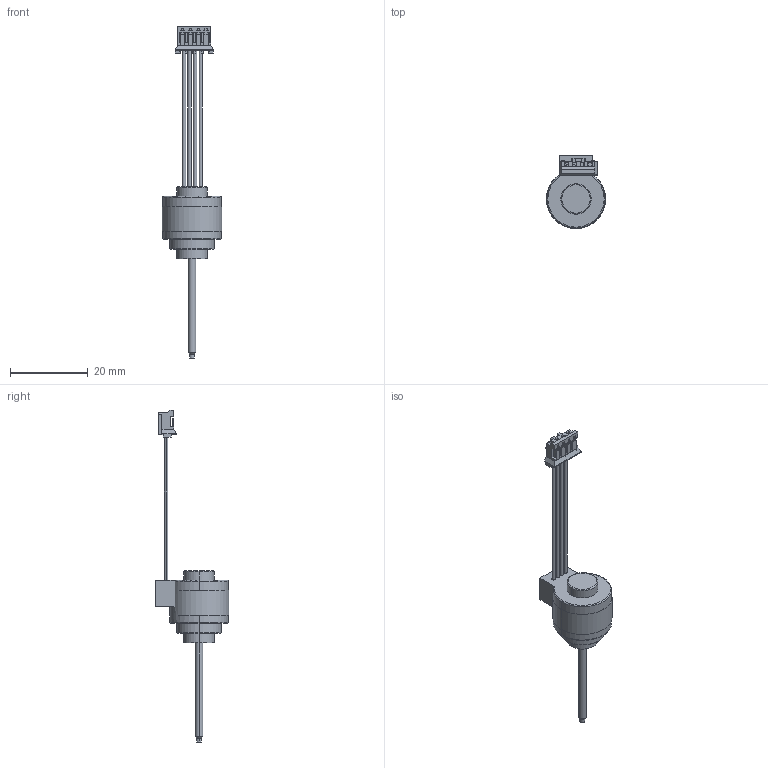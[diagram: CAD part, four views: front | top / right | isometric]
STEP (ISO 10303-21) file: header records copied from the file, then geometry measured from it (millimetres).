
FILE_DESCRIPTION (( 'STEP AP214' ), '1' );
FILE_NAME ('AMETEK-LE1574W-04-25.5-W038-0-0.STEP', '2022-02-28T10:19:01', ( '' ), ( '' ), 'SwSTEP 2.0', 'SolidWorks 2021', '' );
FILE_SCHEMA (( 'AUTOMOTIVE_DESIGN' ));
Length unit declared in the file: millimetre
Products named in the file (4): 56-513_56-513-4; AMETEK-LE1574W-04-25.5-W038-0-0; 52-768_52-768-1; 56-837-2_56-837-2
Assembly tree (3 placements, depth 2):
  AMETEK-LE1574W-04-25.5-W038-0-0
    56-837-2_56-837-2
    52-768_52-768-1
    56-513_56-513-4
Bounding box: 15.21 x 18.82 x 85.45 mm (x, y, z)
Volume: 2949.8 mm3; surface area: 2678 mm2
Topology: 4 solids, 4 shells, 255 faces, 709 edges, 462 vertices
Faces by surface type: plane 220, cylinder 24, torus 7, cone 4
Entity records: 8213 total; most frequent: CARTESIAN_POINT 1442, ORIENTED_EDGE 1418, DIRECTION 1294, EDGE_CURVE 709, VECTOR 642, LINE 642, VERTEX_POINT 462, AXIS2_PLACEMENT_3D 326
